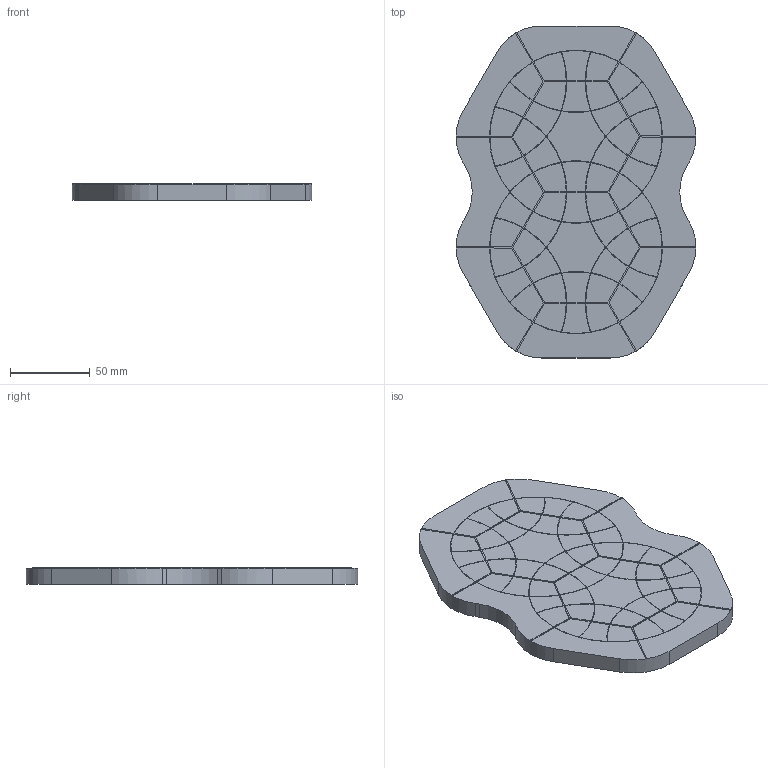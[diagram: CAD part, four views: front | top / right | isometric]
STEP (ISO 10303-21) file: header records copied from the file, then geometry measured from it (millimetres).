
FILE_DESCRIPTION(('FreeCAD Model'),'2;1');
FILE_NAME('Open CASCADE Shape Model','2026-01-01T09:15:30',(''),(''), 'Open CASCADE STEP processor 7.8','FreeCAD','Unknown');
FILE_SCHEMA(('AUTOMOTIVE_DESIGN { 1 0 10303 214 1 1 1 1 }'));
Length unit declared in the file: millimetre
Products named in the file (25): EnigmaPuzzleInPlace; Stone001; Bone001; Center001; Frame001; Body004; Body005; Body006; Body007; Body008; Body009; Body011; Body012; Body013; Body014; Body015; Body016; Body017; Body018; Body019; Body020; Body021; Body022; Body023; Body024
Assembly tree (24 placements, depth 2):
  EnigmaPuzzleInPlace
    Stone001
    Bone001
    Center001
    Frame001
    Body004
    Body005
    Body006
    Body007
    Body008
    Body009
    Body011
    Body012
    Body013
    Body014
    Body015
    Body016
    Body017
    Body018
    Body019
    Body020
    Body021
    Body022
    Body023
    Body024
Bounding box: 150.1 x 207.85 x 10.24 mm (x, y, z)
Volume: 250661.5 mm3; surface area: 98793.3 mm2
Topology: 24 solids, 24 shells, 1387 faces, 3450 edges, 2136 vertices
Faces by surface type: plane 473, bspline 296, cylinder 274, cone 172, torus 172
Entity records: 65818 total; most frequent: CARTESIAN_POINT 35226, ORIENTED_EDGE 6900, DIRECTION 5514, EDGE_CURVE 3450, AXIS2_PLACEMENT_3D 2404, VERTEX_POINT 2136, B_SPLINE_CURVE_WITH_KNOTS 1432, FACE_BOUND 1414
